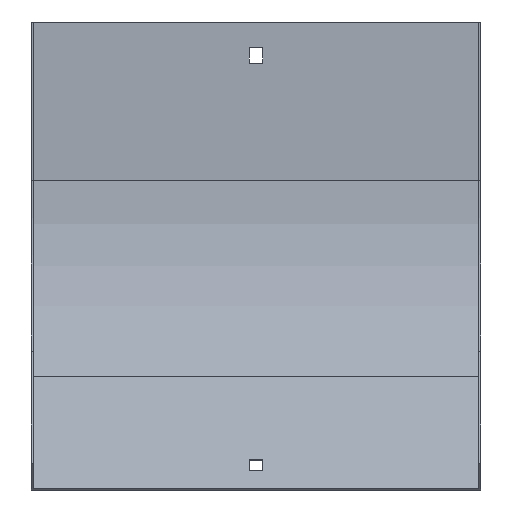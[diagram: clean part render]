
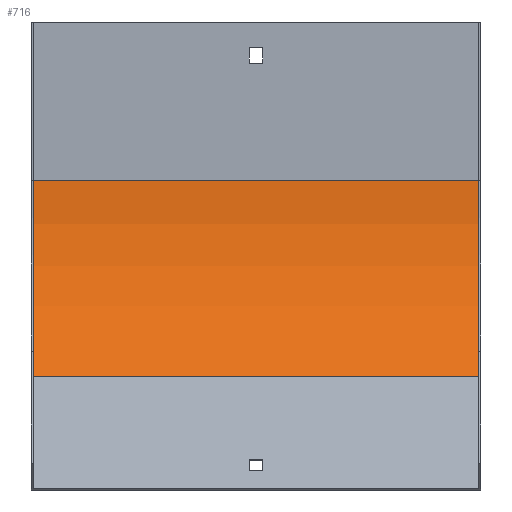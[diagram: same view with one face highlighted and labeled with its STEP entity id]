
A CAD part, front view. The second image highlights one B-rep face of the part: STEP entity #716.
In plain terms, the highlighted cylindrical face has radius 125 mm (diameter 250 mm), a partial arc.
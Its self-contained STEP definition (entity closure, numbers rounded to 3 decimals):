
#7 = EDGE_CURVE ( 'NONE', #69, #132, #218, .T. ) ;
#35 = CIRCLE ( 'NONE', #671, 125. ) ;
#36 = DIRECTION ( 'NONE',  ( 1., 0., 0. ) ) ;
#46 = CARTESIAN_POINT ( 'NONE',  ( -100., -1., -71. ) ) ;
#55 = AXIS2_PLACEMENT_3D ( 'NONE', #795, #213, #71 ) ;
#69 = VERTEX_POINT ( 'NONE', #123 ) ;
#71 = DIRECTION ( 'NONE',  ( 0., 0., 1. ) ) ;
#74 = EDGE_CURVE ( 'NONE', #253, #827, #499, .T. ) ;
#115 = CARTESIAN_POINT ( 'NONE',  ( 101., -126., -71. ) ) ;
#123 = CARTESIAN_POINT ( 'NONE',  ( 100., -37.612, -159.388 ) ) ;
#132 = VERTEX_POINT ( 'NONE', #223 ) ;
#155 = ORIENTED_EDGE ( 'NONE', *, *, #474, .F. ) ;
#212 = VECTOR ( 'NONE', #605, 1000. ) ;
#213 = DIRECTION ( 'NONE',  ( 1., 0., 0. ) ) ;
#218 = LINE ( 'NONE', #355, #212 ) ;
#223 = CARTESIAN_POINT ( 'NONE',  ( -100., -37.612, -159.388 ) ) ;
#227 = CARTESIAN_POINT ( 'NONE',  ( 100., -1., -71. ) ) ;
#250 = DIRECTION ( 'NONE',  ( -1., 0., 0. ) ) ;
#253 = VERTEX_POINT ( 'NONE', #227 ) ;
#260 = CARTESIAN_POINT ( 'NONE',  ( 101., -1., -71. ) ) ;
#277 = ORIENTED_EDGE ( 'NONE', *, *, #782, .T. ) ;
#319 = CARTESIAN_POINT ( 'NONE',  ( 100., -126., -71. ) ) ;
#355 = CARTESIAN_POINT ( 'NONE',  ( 101., -37.612, -159.388 ) ) ;
#364 = DIRECTION ( 'NONE',  ( -1., 0., 0. ) ) ;
#403 = ORIENTED_EDGE ( 'NONE', *, *, #74, .T. ) ;
#474 = EDGE_CURVE ( 'NONE', #132, #827, #763, .T. ) ;
#499 = LINE ( 'NONE', #260, #746 ) ;
#510 = CYLINDRICAL_SURFACE ( 'NONE', #616, 125. ) ;
#605 = DIRECTION ( 'NONE',  ( -1., 0., 0. ) ) ;
#616 = AXIS2_PLACEMENT_3D ( 'NONE', #115, #250, #648 ) ;
#648 = DIRECTION ( 'NONE',  ( 0., 0., 1. ) ) ;
#660 = EDGE_LOOP ( 'NONE', ( #155, #664, #277, #403 ) ) ;
#664 = ORIENTED_EDGE ( 'NONE', *, *, #7, .F. ) ;
#671 = AXIS2_PLACEMENT_3D ( 'NONE', #319, #36, #714 ) ;
#714 = DIRECTION ( 'NONE',  ( 0., 0., 1. ) ) ;
#716 = ADVANCED_FACE ( 'NONE', ( #833 ), #510, .F. ) ;
#746 = VECTOR ( 'NONE', #364, 1000. ) ;
#763 = CIRCLE ( 'NONE', #55, 125. ) ;
#782 = EDGE_CURVE ( 'NONE', #69, #253, #35, .T. ) ;
#795 = CARTESIAN_POINT ( 'NONE',  ( -100., -126., -71. ) ) ;
#827 = VERTEX_POINT ( 'NONE', #46 ) ;
#833 = FACE_OUTER_BOUND ( 'NONE', #660, .T. ) ;
